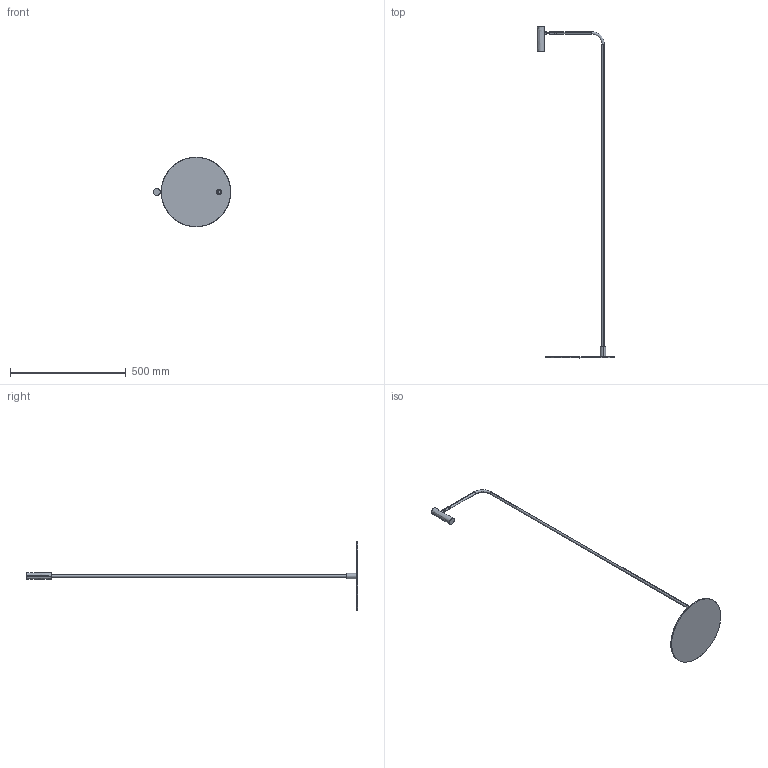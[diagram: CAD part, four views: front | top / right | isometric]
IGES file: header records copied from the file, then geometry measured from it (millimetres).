
Start section: SolidWorks IGES file using analytic representation for surfaces
Global section: file name: C:\Users\Agus\Desktop\Novedades Enero_2022\Maho - P1254\P1254_PIE.IGS; native system: SolidWorks 2018; preprocessor: SolidWorks 2018; author: Agus; date: 211214.183413; units: millimetre
Bounding box: 334.47 x 1435 x 300 mm (x, y, z)
Surface area: 224405.8 mm2 (no closed solid volume)
Topology: 0 solids, 0 shells, 57 faces, 1428 edges, 1428 vertices
Faces by surface type: revolution 33, bspline 24
